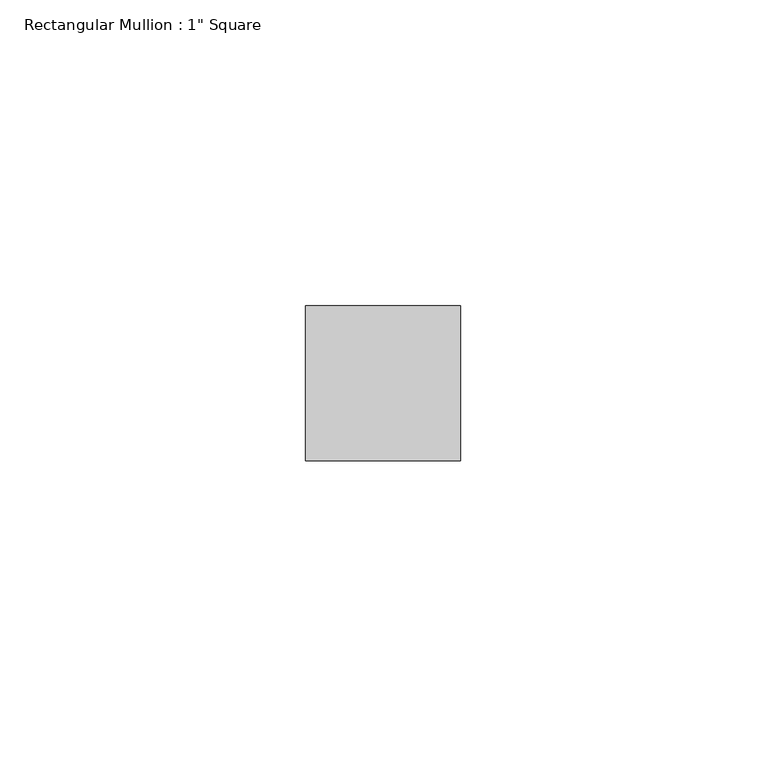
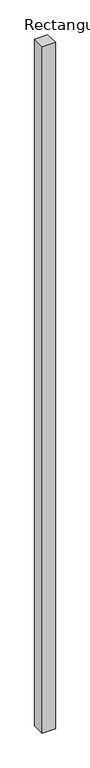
"""IFC4 building model written with IfcOpenShell, lengths in millimetres: member geometry."""

from ifc_helpers import new_model, si_unit, frame, origin, place, context, project, spatial, polyline, outline, extrude, source, transform, mapped, element, save


def member_3e3d858e(model_context):
    return source(origin(), model_context, "Body", "SweptSolid", [
        extrude(outline(polyline([(0.0, 12.7), (0.0, -12.7), (-25.4, -12.7), (-25.4, 12.7), (0.0, 12.7)])), frame((0.0, 0.0, -1408.995024), z_axis=(0.0, 0.0, 1.0), x_axis=(1.0, 0.0, 0.0)), (0.0, 0.0, 1.0), 1408.995024),
    ])


if __name__ == "__main__":
    model = new_model("IFC4")
    model_context = context("Model", 3, world=origin())
    ifc_project = project(units=[si_unit("LENGTHUNIT", "METRE", prefix="MILLI")], contexts=[model_context])
    site = spatial("IfcSite", under=ifc_project)
    building = spatial("IfcBuilding", under=site)
    placement = place(None, origin())
    member_shape = member_3e3d858e(model_context)
    element("IfcMember", 1, ObjectType="Rectangular Mullion : 1\" Square", at=placement, inside=building, context=model_context, shape_type="MappedRepresentation", body=[
        mapped(member_shape, transform((0.0, 0.0, 0.0), x_axis=(1.0, 0.0, 0.0), y_axis=(0.0, 1.0, 0.0), z_axis=(0.0, 0.0, 1.0))),
    ])
    save(model, "model.ifc")
